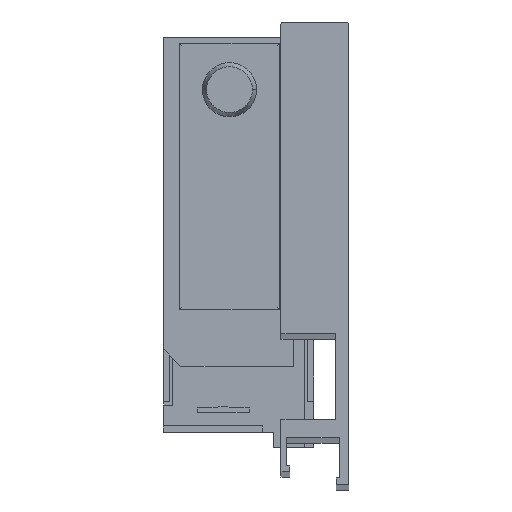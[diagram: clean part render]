
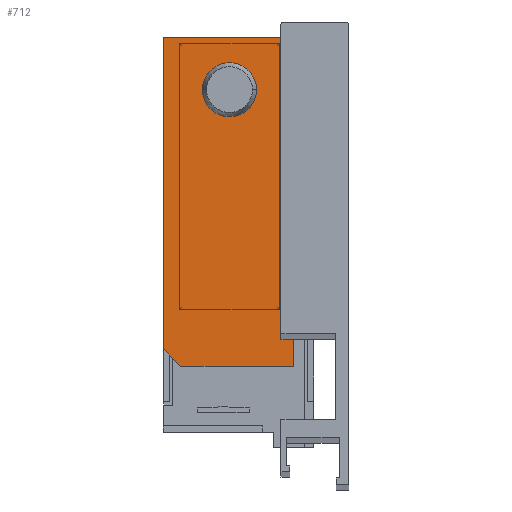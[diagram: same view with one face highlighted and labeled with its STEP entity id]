
A CAD part, top view. The second image highlights one B-rep face of the part: STEP entity #712.
In plain terms, the highlighted planar face has unit normal (0, 0, 1).
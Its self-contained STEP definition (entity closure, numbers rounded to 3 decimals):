
#109 = EDGE_CURVE ( 'NONE', #1052, #723, #2292, .T. ) ;
#114 = VECTOR ( 'NONE', #3019, 1000. ) ;
#239 = DIRECTION ( 'NONE',  ( 1., 0., 0. ) ) ;
#272 = AXIS2_PLACEMENT_3D ( 'NONE', #773, #2437, #1019 ) ;
#292 = CARTESIAN_POINT ( 'NONE',  ( 0., 0., -590. ) ) ;
#301 = CARTESIAN_POINT ( 'NONE',  ( -10.5, 58., -590. ) ) ;
#322 = CARTESIAN_POINT ( 'NONE',  ( -33.1, 58., -590. ) ) ;
#326 = ORIENTED_EDGE ( 'NONE', *, *, #391, .T. ) ;
#348 = EDGE_CURVE ( 'NONE', #887, #1052, #1282, .T. ) ;
#359 = VERTEX_POINT ( 'NONE', #830 ) ;
#391 = EDGE_CURVE ( 'NONE', #359, #414, #1309, .T. ) ;
#394 = ORIENTED_EDGE ( 'NONE', *, *, #1954, .T. ) ;
#414 = VERTEX_POINT ( 'NONE', #2780 ) ;
#419 = CARTESIAN_POINT ( 'NONE',  ( -5.45, 58., -590. ) ) ;
#545 = EDGE_CURVE ( 'NONE', #414, #887, #3086, .T. ) ;
#653 = CARTESIAN_POINT ( 'NONE',  ( -33.1, 58., -590. ) ) ;
#661 = CARTESIAN_POINT ( 'NONE',  ( -10.5, 0., -590. ) ) ;
#669 = CARTESIAN_POINT ( 'NONE',  ( -25.6, 48., -590. ) ) ;
#671 = DIRECTION ( 'NONE',  ( 0., -1., 0. ) ) ;
#676 = ORIENTED_EDGE ( 'NONE', *, *, #348, .T. ) ;
#680 = FACE_BOUND ( 'NONE', #1185, .T. ) ;
#709 = VECTOR ( 'NONE', #671, 1000. ) ;
#712 = ADVANCED_FACE ( 'NONE', ( #2095, #680 ), #1754, .T. ) ;
#723 = VERTEX_POINT ( 'NONE', #301 ) ;
#773 = CARTESIAN_POINT ( 'NONE',  ( -20.4, 48., -590. ) ) ;
#830 = CARTESIAN_POINT ( 'NONE',  ( -29.75, -5.2, -590. ) ) ;
#887 = VERTEX_POINT ( 'NONE', #1323 ) ;
#999 = CARTESIAN_POINT ( 'NONE',  ( -10.5, 59.9, -590. ) ) ;
#1000 = VERTEX_POINT ( 'NONE', #653 ) ;
#1019 = DIRECTION ( 'NONE',  ( 1., 0., 0. ) ) ;
#1024 = ORIENTED_EDGE ( 'NONE', *, *, #545, .T. ) ;
#1052 = VERTEX_POINT ( 'NONE', #661 ) ;
#1110 = VERTEX_POINT ( 'NONE', #2112 ) ;
#1185 = EDGE_LOOP ( 'NONE', ( #394, #3050 ) ) ;
#1282 = LINE ( 'NONE', #2264, #1377 ) ;
#1283 = DIRECTION ( 'NONE',  ( 1., 0., 0. ) ) ;
#1289 = CARTESIAN_POINT ( 'NONE',  ( -33.1, -1.85, -590. ) ) ;
#1306 = DIRECTION ( 'NONE',  ( 0.707, -0.707, 0. ) ) ;
#1309 = LINE ( 'NONE', #1332, #114 ) ;
#1323 = CARTESIAN_POINT ( 'NONE',  ( -8.1, 0., -590. ) ) ;
#1332 = CARTESIAN_POINT ( 'NONE',  ( -29.75, -5.2, -590. ) ) ;
#1373 = CIRCLE ( 'NONE', #272, 5.2 ) ;
#1377 = VECTOR ( 'NONE', #2993, 1000. ) ;
#1614 = EDGE_LOOP ( 'NONE', ( #1024, #676, #2310, #2999, #2015, #2312, #326 ) ) ;
#1711 = DIRECTION ( 'NONE',  ( 0., 0., -1. ) ) ;
#1741 = VERTEX_POINT ( 'NONE', #669 ) ;
#1754 = PLANE ( 'NONE',  #2851 ) ;
#1913 = VECTOR ( 'NONE', #2722, 1000. ) ;
#1954 = EDGE_CURVE ( 'NONE', #1741, #2947, #1373, .T. ) ;
#1973 = LINE ( 'NONE', #1289, #2482 ) ;
#2015 = ORIENTED_EDGE ( 'NONE', *, *, #3113, .T. ) ;
#2095 = FACE_OUTER_BOUND ( 'NONE', #1614, .T. ) ;
#2112 = CARTESIAN_POINT ( 'NONE',  ( -33.1, -1.85, -590. ) ) ;
#2140 = CARTESIAN_POINT ( 'NONE',  ( -8.1, -5.2, -590. ) ) ;
#2264 = CARTESIAN_POINT ( 'NONE',  ( 1.7, 0., -590. ) ) ;
#2292 = LINE ( 'NONE', #999, #3015 ) ;
#2310 = ORIENTED_EDGE ( 'NONE', *, *, #109, .T. ) ;
#2312 = ORIENTED_EDGE ( 'NONE', *, *, #2489, .T. ) ;
#2323 = VECTOR ( 'NONE', #2862, 1000. ) ;
#2403 = EDGE_CURVE ( 'NONE', #2947, #1741, #2714, .T. ) ;
#2437 = DIRECTION ( 'NONE',  ( 0., 0., -1. ) ) ;
#2477 = EDGE_CURVE ( 'NONE', #723, #1000, #2967, .T. ) ;
#2482 = VECTOR ( 'NONE', #1306, 1000. ) ;
#2489 = EDGE_CURVE ( 'NONE', #1110, #359, #1973, .T. ) ;
#2551 = LINE ( 'NONE', #322, #709 ) ;
#2659 = DIRECTION ( 'NONE',  ( 0., 1., 0. ) ) ;
#2714 = CIRCLE ( 'NONE', #3154, 5.2 ) ;
#2718 = DIRECTION ( 'NONE',  ( 0., 0., 1. ) ) ;
#2722 = DIRECTION ( 'NONE',  ( -1., 0., 0. ) ) ;
#2780 = CARTESIAN_POINT ( 'NONE',  ( -8.1, -5.2, -590. ) ) ;
#2851 = AXIS2_PLACEMENT_3D ( 'NONE', #292, #2718, #1283 ) ;
#2862 = DIRECTION ( 'NONE',  ( 0., 1., 0. ) ) ;
#2947 = VERTEX_POINT ( 'NONE', #3020 ) ;
#2967 = LINE ( 'NONE', #419, #1913 ) ;
#2993 = DIRECTION ( 'NONE',  ( -1., 0., 0. ) ) ;
#2999 = ORIENTED_EDGE ( 'NONE', *, *, #2477, .T. ) ;
#3015 = VECTOR ( 'NONE', #2659, 1000. ) ;
#3019 = DIRECTION ( 'NONE',  ( 1., 0., 0. ) ) ;
#3020 = CARTESIAN_POINT ( 'NONE',  ( -15.2, 48., -590. ) ) ;
#3050 = ORIENTED_EDGE ( 'NONE', *, *, #2403, .T. ) ;
#3086 = LINE ( 'NONE', #2140, #2323 ) ;
#3113 = EDGE_CURVE ( 'NONE', #1000, #1110, #2551, .T. ) ;
#3154 = AXIS2_PLACEMENT_3D ( 'NONE', #3158, #1711, #239 ) ;
#3158 = CARTESIAN_POINT ( 'NONE',  ( -20.4, 48., -590. ) ) ;
